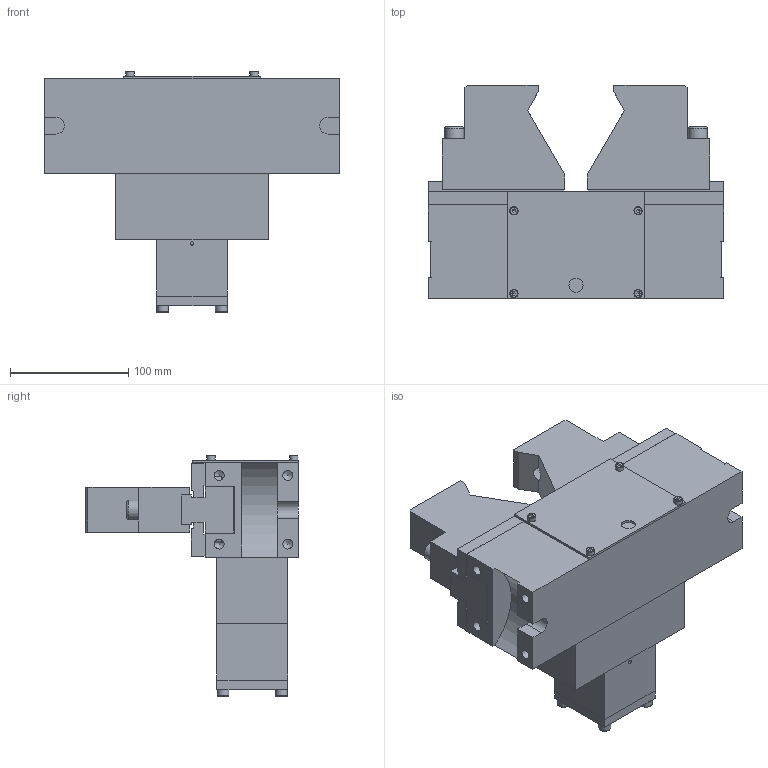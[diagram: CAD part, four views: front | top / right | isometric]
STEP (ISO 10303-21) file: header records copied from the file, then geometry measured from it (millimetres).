
FILE_DESCRIPTION((''),'2;1');
FILE_NAME('C:\VaultWork\Zeichnungen\Maßblätter\Spannstöcke\PZ 80\Maßblatt PZ01159-4-0 Zentrierspannstock PZ80.stp','2012-10-19T10:33:51',('Sergeew'),(''),'Autodesk Inventor 2012','Autodesk Inventor 2012','');
FILE_SCHEMA(('AUTOMOTIVE_DESIGN { 1 0 10303 214 1 1 1 1 }'));
Length unit declared in the file: millimetre
Products named in the file (1): Maßblatt PZ01159-4-0 Zentrierspannstock PZ80
Bounding box: 250 x 180 x 204 mm (x, y, z)
Volume: 2826076.3 mm3; surface area: 256754 mm2
Topology: 1 solids, 25 shells, 642 faces, 1597 edges, 1027 vertices
Faces by surface type: plane 432, cylinder 125, cone 53, torus 32
Full cylindrical faces by diameter (mm): 3 x1, 4 x4, 4.917 x4, 5 x5, 6 x12, 7 x16, 8.376 x10, 8.566 x1, 10 x18, 11 x16, 12 x3, 13 x2, 16 x2, 18 x4, 19 x2
Entity records: 17605 total; most frequent: CARTESIAN_POINT 3471, DIRECTION 2737, ORIENTED_EDGE 2652, EDGE_CURVE 1326, AXIS2_PLACEMENT_3D 941, VERTEX_POINT 937, EDGE_LOOP 907, VECTOR 855
